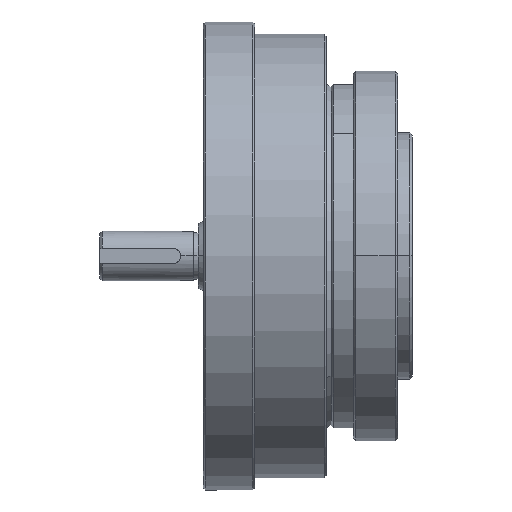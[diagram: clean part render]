
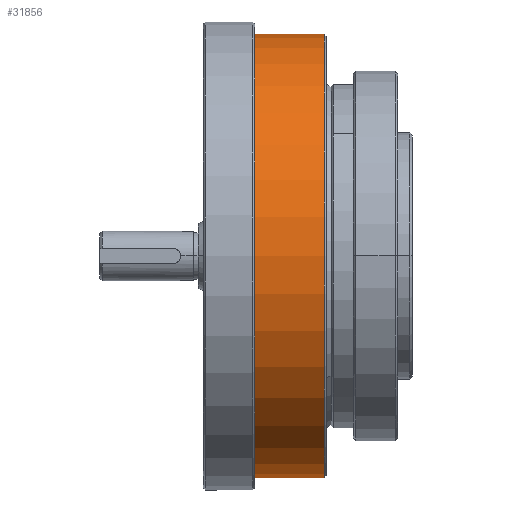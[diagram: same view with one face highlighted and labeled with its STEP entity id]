
A CAD part, top view. The second image highlights one B-rep face of the part: STEP entity #31856.
In plain terms, the highlighted cylindrical face has radius 45 mm (diameter 90 mm), a partial arc.
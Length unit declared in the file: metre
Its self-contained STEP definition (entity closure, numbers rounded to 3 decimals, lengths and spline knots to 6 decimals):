
#1475 = VECTOR ( 'NONE', #51167, 1. ) ;
#1940 = CARTESIAN_POINT ( 'NONE',  ( 0.0289, 0., 0. ) ) ;
#4479 = LINE ( 'NONE', #22980, #1475 ) ;
#5059 = EDGE_LOOP ( 'NONE', ( #56937, #56964, #13777, #23583 ) ) ;
#7097 = DIRECTION ( 'NONE',  ( 1., 0., 0. ) ) ;
#7744 = CARTESIAN_POINT ( 'NONE',  ( 0.0289, -0.045, 0. ) ) ;
#8142 = FACE_OUTER_BOUND ( 'NONE', #5059, .T. ) ;
#8426 = CARTESIAN_POINT ( 'NONE',  ( 0.0456, -0.045, 0. ) ) ;
#11647 = DIRECTION ( 'NONE',  ( -1., 0., 0. ) ) ;
#13777 = ORIENTED_EDGE ( 'NONE', *, *, #32003, .T. ) ;
#14255 = EDGE_CURVE ( 'NONE', #31080, #22035, #51650, .T. ) ;
#16819 = CARTESIAN_POINT ( 'NONE',  ( 0.0456, 0., 0. ) ) ;
#18863 = AXIS2_PLACEMENT_3D ( 'NONE', #16819, #11647, #35330 ) ;
#20434 = DIRECTION ( 'NONE',  ( 0., 1., 0. ) ) ;
#21322 = CARTESIAN_POINT ( 'NONE',  ( 0.0456, 0.045, 0. ) ) ;
#22035 = VERTEX_POINT ( 'NONE', #7744 ) ;
#22090 = DIRECTION ( 'NONE',  ( 0., 1., 0. ) ) ;
#22443 = VERTEX_POINT ( 'NONE', #21322 ) ;
#22980 = CARTESIAN_POINT ( 'NONE',  ( 0.025831, 0.045, 0. ) ) ;
#23583 = ORIENTED_EDGE ( 'NONE', *, *, #46279, .T. ) ;
#29203 = CARTESIAN_POINT ( 'NONE',  ( 0.025831, -0.045, 0. ) ) ;
#31080 = VERTEX_POINT ( 'NONE', #8426 ) ;
#31856 = ADVANCED_FACE ( 'NONE', ( #8142 ), #35176, .T. ) ;
#32003 = EDGE_CURVE ( 'NONE', #22443, #53676, #4479, .T. ) ;
#32678 = EDGE_CURVE ( 'NONE', #31080, #22443, #48982, .T. ) ;
#35176 = CYLINDRICAL_SURFACE ( 'NONE', #50874, 0.045 ) ;
#35330 = DIRECTION ( 'NONE',  ( 0., 1., 0. ) ) ;
#37425 = DIRECTION ( 'NONE',  ( -1., 0., 0. ) ) ;
#40644 = VECTOR ( 'NONE', #37425, 1. ) ;
#42429 = AXIS2_PLACEMENT_3D ( 'NONE', #1940, #7097, #20434 ) ;
#43382 = CIRCLE ( 'NONE', #42429, 0.045 ) ;
#45980 = CARTESIAN_POINT ( 'NONE',  ( 0.0289, 0.045, 0. ) ) ;
#46279 = EDGE_CURVE ( 'NONE', #53676, #22035, #43382, .T. ) ;
#48982 = CIRCLE ( 'NONE', #18863, 0.045 ) ;
#50874 = AXIS2_PLACEMENT_3D ( 'NONE', #53680, #54266, #22090 ) ;
#51167 = DIRECTION ( 'NONE',  ( -1., 0., 0. ) ) ;
#51650 = LINE ( 'NONE', #29203, #40644 ) ;
#53676 = VERTEX_POINT ( 'NONE', #45980 ) ;
#53680 = CARTESIAN_POINT ( 'NONE',  ( 0.025831, 0., 0. ) ) ;
#54266 = DIRECTION ( 'NONE',  ( -1., 0., 0. ) ) ;
#56937 = ORIENTED_EDGE ( 'NONE', *, *, #14255, .F. ) ;
#56964 = ORIENTED_EDGE ( 'NONE', *, *, #32678, .T. ) ;
